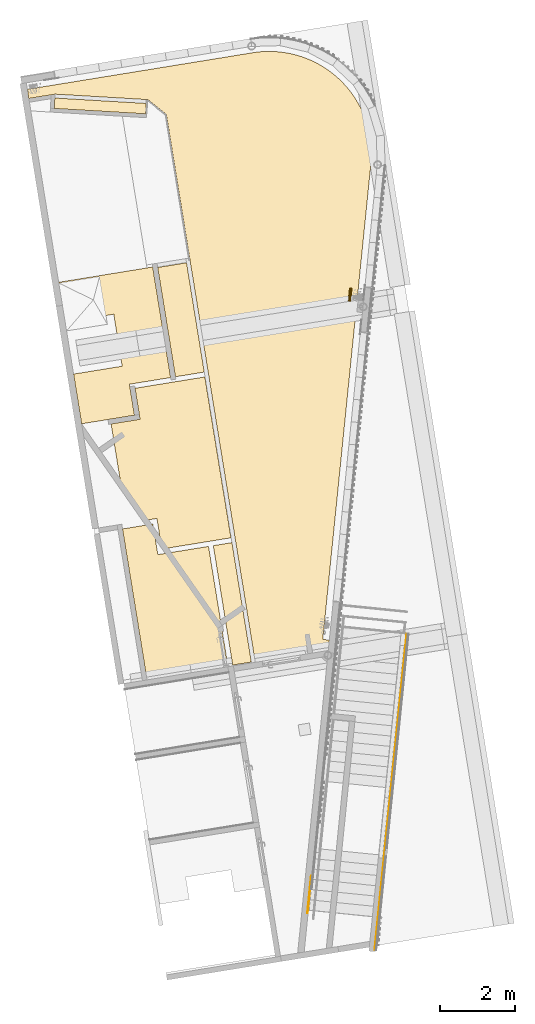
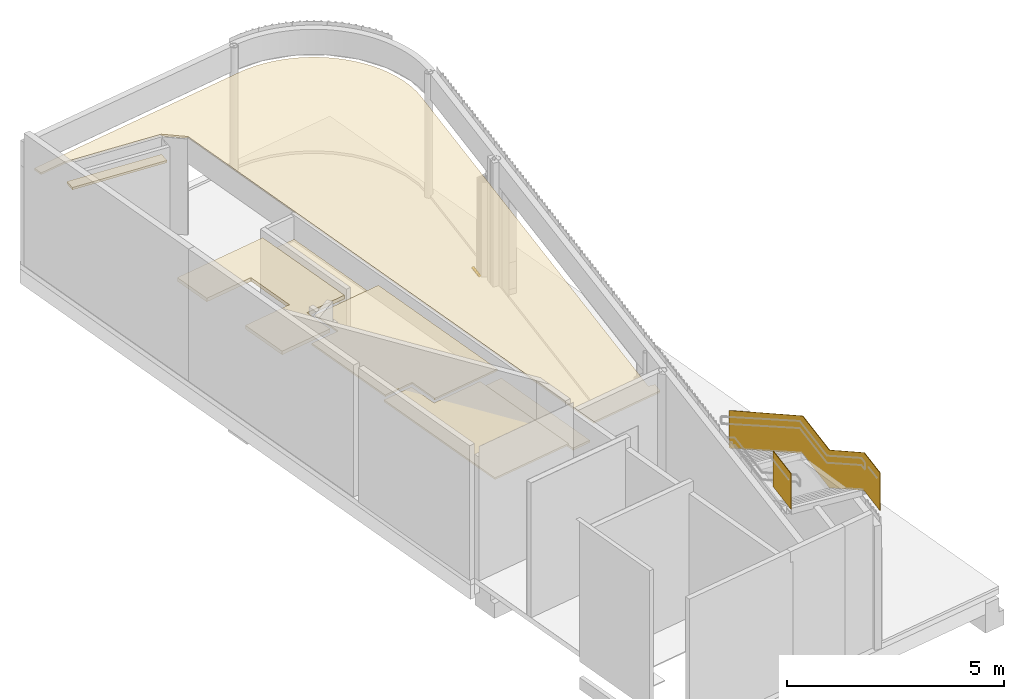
# One storey, part 21 of 23: 7 coverings, 2 railings.
"""IFC2X3 building model written with IfcOpenShell, lengths in millimetres."""

from ifc_helpers import new_model, entity, si_unit, converted_unit, derived_unit, direction, frame, frame_2d, origin, origin_with_axes, origin_2d_with_axis, place, context, subcontext, project, spatial, polyline, circle_curve, parameter, trimmed, segment, composite_curve, rectangle, circle, outline, extrude, source, transform, mapped, material, layer, layer_set, layer_usage, type_object, element, save


model = new_model("IFC2X3")

# Units and contexts
plan_context = context("Plan", 3, precision=1e-05, world=origin_with_axes())
model_context = context("Model", 3, precision=0.01, world=origin(), true_north=direction((6.12323399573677e-17, 1.0)))
body_context = subcontext(model_context, "Body", "Model", "MODEL_VIEW")
ifc_project = project(units=[converted_unit("PLANEANGLEUNIT", "DEGREE", entity("IfcPositiveLengthMeasure", 0.0174532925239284), si_unit("PLANEANGLEUNIT", "RADIAN"), dimensions=[0, 0, 0, 0, 0, 0, 0]), si_unit("AREAUNIT", "SQUARE_METRE"), si_unit("LENGTHUNIT", "METRE", prefix="MILLI"), si_unit("MASSUNIT", "GRAM", prefix="KILO"), si_unit("POWERUNIT", "WATT"), si_unit("PRESSUREUNIT", "PASCAL", prefix="KILO"), si_unit("FORCEUNIT", "NEWTON", prefix="KILO"), si_unit("ELECTRICVOLTAGEUNIT", "VOLT"), si_unit("ELECTRICCURRENTUNIT", "AMPERE"), si_unit("THERMODYNAMICTEMPERATUREUNIT", "DEGREE_CELSIUS"), si_unit("TIMEUNIT", "SECOND"), si_unit("VOLUMEUNIT", "CUBIC_METRE"), derived_unit("LINEARVELOCITYUNIT", [(si_unit("LENGTHUNIT", "METRE"), 1), (si_unit("TIMEUNIT", "SECOND"), -1)]), derived_unit("VOLUMETRICFLOWRATEUNIT", [(si_unit("VOLUMEUNIT", "CUBIC_METRE"), 1), (si_unit("TIMEUNIT", "SECOND"), -1)]), derived_unit("THERMALTRANSMITTANCEUNIT", [(si_unit("POWERUNIT", "WATT"), 1), (si_unit("THERMODYNAMICTEMPERATUREUNIT", "KELVIN"), -1), (si_unit("AREAUNIT", "SQUARE_METRE"), -1)]), derived_unit("SOUNDPRESSUREUNIT", [(si_unit("PRESSUREUNIT", "PASCAL"), 1)])], contexts=[model_context, plan_context])

# Site, building, storey
site_placement = place(None, frame((-0.00071070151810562, 0.00438415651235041, 0.0), z_axis=(0.0, 0.0, 1.0), x_axis=(-0.160236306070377, 0.987078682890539, 0.0)))
site = spatial("IfcSite", under=ifc_project, at=site_placement, Name="Default", CompositionType="ELEMENT")
building_placement = place(site_placement, origin_with_axes())
building = spatial("IfcBuilding", under=site, at=building_placement, Name="TOO", CompositionType="ELEMENT")
storey_placement = place(building_placement, frame((0.0, 0.0, 58999.9999999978), z_axis=(0.0, 0.0, 1.0), x_axis=(1.0, 0.0, 0.0)))
storey = spatial("IfcBuildingStorey", under=building, at=storey_placement, Name="Nivå F", CompositionType="ELEMENT", Elevation=58999.9999999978)

# Railing
ifc_material_1 = material(Name="A200 - Glass")
railing_type_1 = type_object("IfcRailingType", Name="287-GL06:287-GL06", PredefinedType="NOTDEFINED", material=ifc_material_1)
shared_shape = source(origin(), body_context, "Body", "SweptSolid", [
    extrude(rectangle(XDim=16.7999999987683, YDim=1002.42876463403, at=origin_2d_with_axis()), frame((764672.535065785, -505000.538861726, 62848.7141875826), z_axis=(0.0, 0.0, 1.0), x_axis=(-0.258819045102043, -0.965925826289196, 0.0)), (0.0, 0.0, 1.0), 1001.28581241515),
    extrude(outline(polyline([(-1009.46823096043, -454.292520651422), (463.507405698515, -454.292520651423), (1009.46823096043, 454.292520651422), (-463.507405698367, 454.292520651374), (-1009.46823096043, -454.292520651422)])), frame((770493.712432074, -508515.280173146, 60048.9139833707), z_axis=(0.258814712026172, 0.96592698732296, 0.0), x_axis=(0.827949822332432, -0.221844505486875, -0.515057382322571)), (0.0, 0.0, 1.0), 16.7999999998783),
    extrude(outline(polyline([(-797.972546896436, -454.292520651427), (252.011721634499, -454.292520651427), (797.972546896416, 454.292520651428), (-252.01172163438, 454.292520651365), (-797.972546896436, -454.292520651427)])), frame((769449.270329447, -508235.427776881, 60698.6485456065), z_axis=(0.258814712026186, 0.965926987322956, 0.0), x_axis=(0.827949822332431, -0.221844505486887, -0.515057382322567)), (0.0, 0.0, 1.0), 16.7999999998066),
    extrude(outline(polyline([(-797.972546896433, -454.292520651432), (252.011721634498, -454.292520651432), (797.972546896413, 454.292520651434), (-252.011721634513, 454.292520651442), (-797.972546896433, -454.292520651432)])), frame((768579.936040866, -508002.49453606, 61239.4506944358), z_axis=(0.258814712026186, 0.965926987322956, 0.0), x_axis=(0.827949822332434, -0.221844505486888, -0.515057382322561)), (0.0, 0.0, 1.0), 16.7999999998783),
    extrude(outline(polyline([(-878.217559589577, -454.292520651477), (332.256734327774, -454.292520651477), (878.217559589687, 454.292520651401), (-332.256734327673, 454.292520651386), (-878.217559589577, -454.292520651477)])), frame((765169.037730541, -507088.563487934, 62459.9927301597), z_axis=(0.258814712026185, 0.965926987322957, 0.0), x_axis=(0.827949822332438, -0.221844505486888, -0.515057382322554)), (0.0, 0.0, 1.0), 16.7999999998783),
    extrude(outline(polyline([(-892.726020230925, -454.292520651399), (346.765194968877, -454.292520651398), (892.726020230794, 454.292520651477), (-346.765194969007, 454.292520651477), (-892.726020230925, -454.292520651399)])), frame((767632.150630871, -507748.540757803, 61829.0563192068), z_axis=(0.258814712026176, 0.965926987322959, 0.0), x_axis=(0.827949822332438, -0.221844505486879, -0.515057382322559)), (0.0, 0.0, 1.0), 16.7999999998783),
    extrude(outline(polyline([(-805.227331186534, -454.292520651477), (259.266505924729, -454.292520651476), (805.227331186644, 454.2925206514), (-259.266505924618, 454.2925206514), (-805.227331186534, -454.292520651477)])), frame((764227.258000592, -506836.21889792, 63045.8622953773), z_axis=(0.258814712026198, 0.965926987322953, 0.0), x_axis=(0.827949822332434, -0.221844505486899, -0.515057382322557)), (0.0, 0.0, 1.0), 16.7999999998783),
    extrude(rectangle(XDim=16.7999999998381, YDim=1499.99810063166, at=frame_2d((-3.34665628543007e-11, -9.03810359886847e-12), x_axis=(1.0, 0.0))), frame((766396.762085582, -507408.829025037, 61618.260869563), z_axis=(0.0, 0.0, 1.0), x_axis=(-0.258814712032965, -0.96592698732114, 0.0)), (0.0, 0.0, 1.0), 1060.0),
    extrude(rectangle(XDim=16.7999999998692, YDim=887.563040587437, at=frame_2d((-3.34674510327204e-11, -8.98126018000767e-12), x_axis=(1.0, 0.0))), frame((763360.097755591, -506595.171870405, 62788.7141875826), z_axis=(0.0, 0.0, 1.0), x_axis=(-0.258814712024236, -0.965926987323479, 0.0)), (0.0, 0.0, 1.0), 1061.28581241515),
])
railing_1_placement = place(storey_placement, frame((0.0, 0.0, -58999.9999999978), z_axis=(0.0, 0.0, 1.0), x_axis=(1.0, 0.0, 0.0)))
element("IfcRailing", 1, at=railing_1_placement, inside=storey, type_object=railing_type_1, material=ifc_material_1, Name="287-GL06:287-GL06", ObjectType="287-GL06:287-GL06", PredefinedType="NOTDEFINED", context=body_context, shape_type="MappedRepresentation", body=[
    mapped(shared_shape, transform((0.0, 0.0, 0.0), scale=1.0)),
])

# Coverings
ifc_material_2 = material(Name="A257 - Mineralull - 600 x 600mm")
ifc_layer_1 = layer(ifc_material_2, 50.0)
ifc_layer_set_1 = layer_set([ifc_layer_1], Name="Compound Ceiling:A257 X513A - 600x600 (KA)")
ifc_layer_usage_1 = layer_usage(ifc_layer_set_1, "AXIS3", "NEGATIVE", 50.0)
covering_type_1 = type_object("IfcCoveringType", Name="Compound Ceiling:A257 X513A - 600x600 (KA)", PredefinedType="CEILING")
covering_1_placement = place(storey_placement, origin_with_axes())
element("IfcCovering", 2, at=covering_1_placement, inside=storey, type_object=covering_type_1, material=ifc_layer_usage_1, Name="Compound Ceiling:A257 X513A - 600x600 (KA)", ObjectType="Compound Ceiling:A257 X513A - 600x600 (KA)", PredefinedType="CEILING", context=body_context, shape_type="SweptSolid", body=[
    extrude(outline(polyline([(-1600.74999999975, -2170.0), (280.250000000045, -2170.0), (280.250000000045, -1335.0), (1060.25000000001, -1335.0), (1060.25000000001, 1340.0), (260.249999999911, 1340.0), (260.249999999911, 2165.0), (-1600.74999999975, 2165.0), (-1600.74999999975, -2170.0)])), frame((776540.119644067, -502860.230498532, 2400.0), z_axis=(0.0, 0.0, 1.0), x_axis=(0.0, 1.0, 0.0)), (0.0, 0.0, 1.0), 49.9999999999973),
])
ifc_layer_usage_2 = layer_usage(ifc_layer_set_1, "AXIS3", "NEGATIVE", 50.0)
covering_2_placement = place(storey_placement, origin_with_axes())
element("IfcCovering", 3, at=covering_2_placement, inside=storey, type_object=covering_type_1, material=ifc_layer_usage_2, Name="Compound Ceiling:A257 X513A - 600x600 (KA)", ObjectType="Compound Ceiling:A257 X513A - 600x600 (KA)", PredefinedType="CEILING", context=body_context, shape_type="SweptSolid", body=[
    extrude(outline(polyline([(-1622.66879292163, -1000.0), (2420.3375858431, -1000.0), (2420.33758584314, 1182.50000000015), (-797.668792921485, 1182.5000000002), (-797.668792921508, -182.49999999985), (-1622.66879292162, -182.499999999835), (-1622.66879292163, -1000.0)])), frame((773447.450851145, -502652.480498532, 2400.0), z_axis=(0.0, 0.0, 1.0), x_axis=(-1.0, 0.0, 0.0)), (0.0, 0.0, 1.0), 49.9999999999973),
])
ifc_layer_usage_3 = layer_usage(ifc_layer_set_1, "AXIS3", "NEGATIVE", 50.0)
covering_3_placement = place(storey_placement, origin_with_axes())
element("IfcCovering", 4, at=covering_3_placement, inside=storey, type_object=covering_type_1, material=ifc_layer_usage_3, Name="Compound Ceiling:A257 X513A - 600x600 (KA)", ObjectType="Compound Ceiling:A257 X513A - 600x600 (KA)", PredefinedType="CEILING", context=body_context, shape_type="SweptSolid", body=[
    extrude(outline(composite_curve([segment(polyline([(-4127.60333374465, -8662.35233243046), (-4127.60333374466, -8939.82996572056)]), True, "CONTINUOUS"), segment(polyline([(-4127.60333374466, -8939.82996572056), (-2228.05694227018, -9448.81188730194)]), True, "CONTINUOUS"), segment(polyline([(-2228.05694227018, -9448.81188730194), (1593.25963870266, 4812.53574468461)]), True, "CONTINUOUS"), segment(polyline([(1593.25963870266, 4812.53574468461), (2118.6772736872, 5153.74594644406)]), True, "CONTINUOUS"), segment(polyline([(2118.6772736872, 5153.74594644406), (4591.91911653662, 5050.08640040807)]), True, "CONTINUOUS"), segment(polyline([(4591.91911653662, 5050.08640040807), (5274.82867571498, 4867.10133552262)]), True, "CONTINUOUS"), segment(polyline([(5274.82867571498, 4867.10133552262), (5338.40110366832, 5104.35686660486)]), True, "CONTINUOUS"), segment(polyline([(5338.40110366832, 5104.35686660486), (-528.615531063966, 6676.41923586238)]), True, "CONTINUOUS"), segment(trimmed(circle_curve(frame_2d((-1232.60333374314, 4049.10098835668), x_axis=(0.258819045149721, 0.965925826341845)), 2719.99999999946), [parameter(0.0)], [parameter(105.000000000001)], True, "PARAMETER"), True, "CONTINUOUS"), segment(polyline([(-3952.60333374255, 4049.10098835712), (-3952.60333374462, -8662.3523324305)]), True, "CONTINUOUS"), segment(polyline([(-3952.60333374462, -8662.3523324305), (-4127.60333374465, -8662.35233243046)]), True, "CONTINUOUS")], self_intersect=False)), frame((780706.134643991, -504862.875225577, 2700.0), z_axis=(0.0, 0.0, -1.0), x_axis=(0.258819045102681, 0.965925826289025, 0.0)), (0.0, 0.0, -1.0), 49.9999999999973),
])
ifc_material_3 = material(Name="_NSW Standard")
ifc_layer_2 = layer(ifc_material_3, 80.0)
ifc_material_4 = material(Name="_NSW Himlingsplate 600x600 mm")
ifc_layer_3 = layer(ifc_material_4, 20.0)
ifc_layer_set_2 = layer_set([ifc_layer_2, ifc_layer_3], Name="Compound Ceiling:A257 MF02 Ansatte Hygiene Himling  600 x 600")
ifc_layer_usage_4 = layer_usage(ifc_layer_set_2, "AXIS3", "NEGATIVE", 100.0)
covering_type_2 = type_object("IfcCoveringType", Name="Compound Ceiling:A257 MF02 Ansatte Hygiene Himling  600 x 600", PredefinedType="CEILING")
covering_4_placement = place(storey_placement, origin_with_axes())
element("IfcCovering", 5, at=covering_4_placement, inside=storey, type_object=covering_type_2, material=ifc_layer_usage_4, Name="Compound Ceiling:A257 MF02 Ansatte Hygiene Himling  600 x 600", ObjectType="Compound Ceiling:A257 MF02 Ansatte Hygiene Himling  600 x 600", PredefinedType="CEILING", context=body_context, shape_type="SweptSolid", body=[
    extrude(outline(polyline([(-1053.0, -1745.43303850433), (369.499999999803, -1745.43303850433), (369.499999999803, -910.433038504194), (1479.50000000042, -910.433038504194), (1479.50000000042, 2067.73215401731), (-1053.0, 2067.73215401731), (-1053.0, 994.06696149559), (257.0, 994.06696149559), (257.0, -405.933038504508), (-1053.0, -405.933038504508), (-1053.0, -1745.43303850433)])), frame((779750.552682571, -502080.480498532, 2400.0), z_axis=(0.0, 0.0, 1.0), x_axis=(0.0, -1.0, 0.0)), (0.0, 0.0, 1.0), 100.000000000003),
])
ifc_material_5 = material(Name="_NSW Stålstender, uisolert")
ifc_layer_4 = layer(ifc_material_5, 50.0)
ifc_material_6 = material(Name="A240 - Gipsplate")
ifc_layer_5 = layer(ifc_material_6, 13.0)
ifc_layer_set_3 = layer_set([ifc_layer_4, ifc_layer_5], Name="Compound Ceiling:A257 - Gipshimling (KA)")
ifc_layer_usage_5 = layer_usage(ifc_layer_set_3, "AXIS3", "NEGATIVE", 63.0)
covering_type_3 = type_object("IfcCoveringType", Name="Compound Ceiling:A257 - Gipshimling (KA)", PredefinedType="CEILING")
covering_5_placement = place(storey_placement, origin_with_axes())
element("IfcCovering", 6, at=covering_5_placement, inside=storey, type_object=covering_type_3, material=ifc_layer_usage_5, Name="Compound Ceiling:A257 - Gipshimling (KA)", ObjectType="Compound Ceiling:A257 - Gipshimling (KA)", PredefinedType="CEILING", context=body_context, shape_type="SweptSolid", body=[
    extrude(rectangle(XDim=3218.00637876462, YDim=501.999999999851, at=origin_2d_with_axis()), frame((772636.116454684, -504215.980498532, 2200.0), z_axis=(0.0, 0.0, 1.0), x_axis=(-1.0, 0.0, 0.0)), (0.0, 0.0, 1.0), 63.000000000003),
])
ifc_layer_usage_6 = layer_usage(ifc_layer_set_3, "AXIS3", "NEGATIVE", 63.0)
covering_6_placement = place(storey_placement, origin_with_axes())
element("IfcCovering", 7, at=covering_6_placement, inside=storey, type_object=covering_type_3, material=ifc_layer_usage_6, Name="Compound Ceiling:A257 - Gipshimling (KA)", ObjectType="Compound Ceiling:A257 - Gipshimling (KA)", PredefinedType="CEILING", context=body_context, shape_type="SweptSolid", body=[
    extrude(rectangle(XDim=2435.0000000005, YDim=277.499999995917, at=frame_2d((-5.25233190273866e-11, -8.27355961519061e-11), x_axis=(1.0, 0.0))), frame((786271.590328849, -502870.032099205, 2200.0), z_axis=(0.0, 0.0, 1.0), x_axis=(-0.218143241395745, -0.975916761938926, 0.0)), (0.0, 0.0, 1.0), 63.000000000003),
])
ifc_layer_usage_7 = layer_usage(ifc_layer_set_3, "AXIS3", "NEGATIVE", 63.0)
covering_7_placement = place(storey_placement, origin_with_axes())
element("IfcCovering", 8, at=covering_7_placement, inside=storey, type_object=covering_type_3, material=ifc_layer_usage_7, Name="Compound Ceiling:A257 - Gipshimling (KA)", ObjectType="Compound Ceiling:A257 - Gipshimling (KA)", PredefinedType="CEILING", context=body_context, shape_type="SweptSolid", body=[
    extrude(rectangle(XDim=2944.99999999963, YDim=776.999999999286, at=frame_2d((6.92352841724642e-11, 0.0), x_axis=(1.0, 0.0))), frame((780312.619644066, -504078.480498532, 2010.0), z_axis=(0.0, 0.0, 1.0), x_axis=(-1.0, 0.0, 0.0)), (0.0, 0.0, 1.0), 63.000000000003),
])

# Railing
ifc_material_7 = material(Name="<Unnamed>")
railing_type_2 = type_object("IfcRailingType", Name="Railing:A287-S03", PredefinedType="NOTDEFINED")
railing_2_placement = place(storey_placement, origin_with_axes())
element("IfcRailing", 9, at=railing_2_placement, inside=storey, type_object=railing_type_2, material=ifc_material_7, Name="Railing:A287-S03", ObjectType="Railing:A287-S03", PredefinedType="NOTDEFINED", context=body_context, shape_type="SweptSolid", body=[
    extrude(circle(Radius=35.0, at=origin_2d_with_axis()), frame((780426.369881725, -508672.894026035, 150.0), z_axis=(-0.965924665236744, 0.258823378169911, 0.0), x_axis=(0.258823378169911, 0.965924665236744, 0.0)), (0.0, 0.0, 1.0), 360.000000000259),
])

save(model, "model.ifc")
